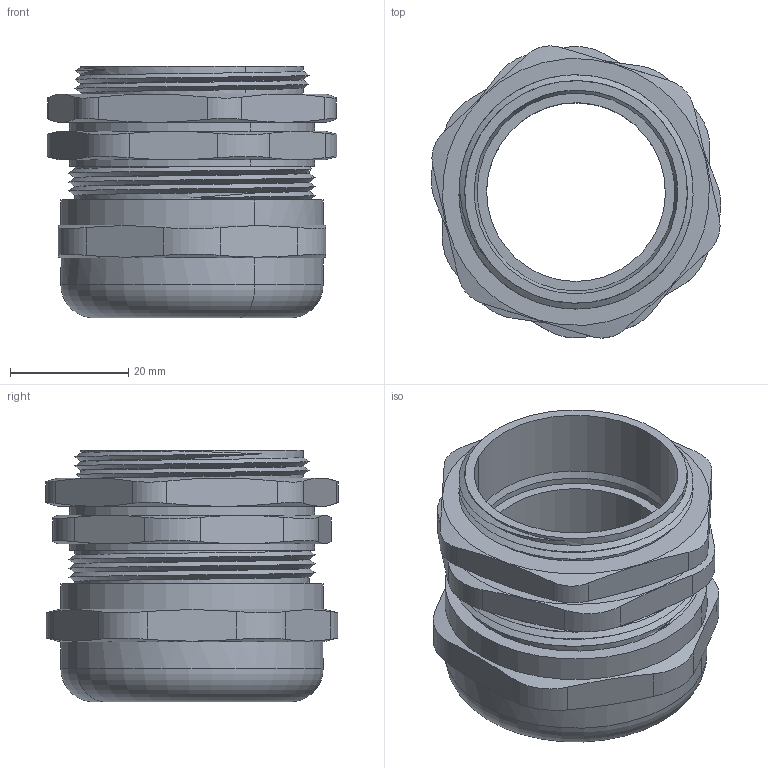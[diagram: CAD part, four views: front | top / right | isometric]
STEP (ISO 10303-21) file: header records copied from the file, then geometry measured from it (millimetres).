
FILE_DESCRIPTION(('CATIA V5 STEP Exchange'),'2;1');
FILE_NAME('C:\Users\Administrator\Desktop\m40-1.5tong.stp','2023-07-10T07:40:06+00:00',('none'),('none'),'CATIA Version 5 Release 21 GA (IN-10)','CATIA V5 STEP AP203','none');
FILE_SCHEMA(('CONFIG_CONTROL_DESIGN'));
Length unit declared in the file: millimetre
Products named in the file (1): Part3
Bounding box: 48.94 x 49.35 x 42.5 mm (x, y, z)
Volume: 30372.2 mm3; surface area: 14053.7 mm2
Topology: 1 solids, 1 shells, 93 faces, 242 edges, 163 vertices
Faces by surface type: cylinder 46, plane 27, cone 14, bspline 4, torus 2
Entity records: 4514 total; most frequent: CARTESIAN_POINT 2549, ORIENTED_EDGE 484, DIRECTION 243, EDGE_CURVE 242, VERTEX_POINT 158, B_SPLINE_CURVE_WITH_KNOTS 119, AXIS2_PLACEMENT_3D 107, EDGE_LOOP 102
